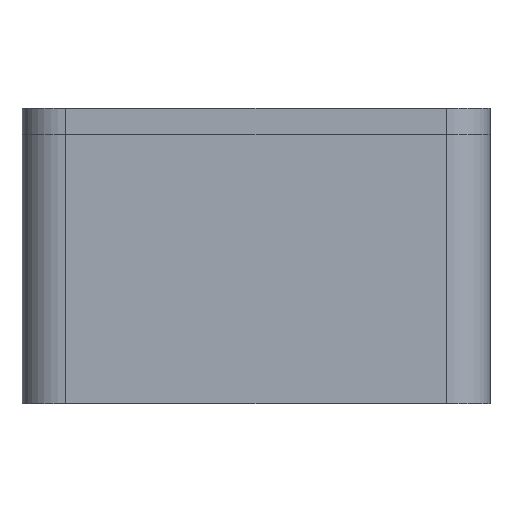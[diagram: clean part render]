
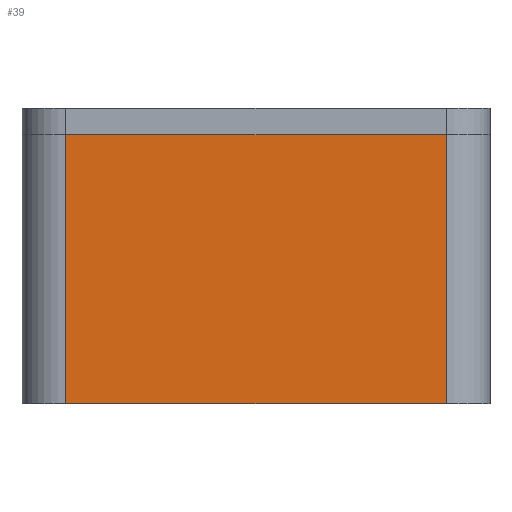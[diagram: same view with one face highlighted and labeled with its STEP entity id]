
A CAD part, left-side view. The second image highlights one B-rep face of the part: STEP entity #39.
In plain terms, the highlighted planar face has unit normal (-1, 0, 0).
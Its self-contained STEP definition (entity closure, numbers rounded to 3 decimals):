
#39 = ADVANCED_FACE('',(#40),#54,.F.);
#40 = FACE_BOUND('',#41,.F.);
#41 = EDGE_LOOP('',(#42,#77,#105,#133));
#42 = ORIENTED_EDGE('',*,*,#43,.F.);
#43 = EDGE_CURVE('',#44,#46,#48,.T.);
#44 = VERTEX_POINT('',#45);
#45 = CARTESIAN_POINT('',(-13.2,-13.,18.4));
#46 = VERTEX_POINT('',#47);
#47 = CARTESIAN_POINT('',(-13.2,13.,18.4));
#48 = SURFACE_CURVE('',#49,(#53,#65),.PCURVE_S1.);
#49 = LINE('',#50,#51);
#50 = CARTESIAN_POINT('',(-13.2,-16.,18.4));
#51 = VECTOR('',#52,1.);
#52 = DIRECTION('',(0.,1.,0.));
#53 = PCURVE('',#54,#59);
#54 = PLANE('',#55);
#55 = AXIS2_PLACEMENT_3D('',#56,#57,#58);
#56 = CARTESIAN_POINT('',(-13.2,-16.,0.));
#57 = DIRECTION('',(1.,0.,0.));
#58 = DIRECTION('',(0.,0.,1.));
#59 = DEFINITIONAL_REPRESENTATION('',(#60),#64);
#60 = LINE('',#61,#62);
#61 = CARTESIAN_POINT('',(18.4,0.));
#62 = VECTOR('',#63,1.);
#63 = DIRECTION('',(0.,-1.));
#64 = ( GEOMETRIC_REPRESENTATION_CONTEXT(2) 
PARAMETRIC_REPRESENTATION_CONTEXT() REPRESENTATION_CONTEXT('2D SPACE',''
  ) );
#65 = PCURVE('',#66,#71);
#66 = PLANE('',#67);
#67 = AXIS2_PLACEMENT_3D('',#68,#69,#70);
#68 = CARTESIAN_POINT('',(-13.2,-16.,18.4));
#69 = DIRECTION('',(0.,0.,1.));
#70 = DIRECTION('',(1.,0.,0.));
#71 = DEFINITIONAL_REPRESENTATION('',(#72),#76);
#72 = LINE('',#73,#74);
#73 = CARTESIAN_POINT('',(0.,0.));
#74 = VECTOR('',#75,1.);
#75 = DIRECTION('',(0.,1.));
#76 = ( GEOMETRIC_REPRESENTATION_CONTEXT(2) 
PARAMETRIC_REPRESENTATION_CONTEXT() REPRESENTATION_CONTEXT('2D SPACE',''
  ) );
#77 = ORIENTED_EDGE('',*,*,#78,.F.);
#78 = EDGE_CURVE('',#79,#44,#81,.T.);
#79 = VERTEX_POINT('',#80);
#80 = CARTESIAN_POINT('',(-13.2,-13.,0.));
#81 = SURFACE_CURVE('',#82,(#86,#93),.PCURVE_S1.);
#82 = LINE('',#83,#84);
#83 = CARTESIAN_POINT('',(-13.2,-13.,0.));
#84 = VECTOR('',#85,1.);
#85 = DIRECTION('',(0.,0.,1.));
#86 = PCURVE('',#54,#87);
#87 = DEFINITIONAL_REPRESENTATION('',(#88),#92);
#88 = LINE('',#89,#90);
#89 = CARTESIAN_POINT('',(0.,-3.));
#90 = VECTOR('',#91,1.);
#91 = DIRECTION('',(1.,0.));
#92 = ( GEOMETRIC_REPRESENTATION_CONTEXT(2) 
PARAMETRIC_REPRESENTATION_CONTEXT() REPRESENTATION_CONTEXT('2D SPACE',''
  ) );
#93 = PCURVE('',#94,#99);
#94 = CYLINDRICAL_SURFACE('',#95,3.);
#95 = AXIS2_PLACEMENT_3D('',#96,#97,#98);
#96 = CARTESIAN_POINT('',(-10.2,-13.,0.));
#97 = DIRECTION('',(0.,0.,1.));
#98 = DIRECTION('',(-1.,-0.,0.));
#99 = DEFINITIONAL_REPRESENTATION('',(#100),#104);
#100 = LINE('',#101,#102);
#101 = CARTESIAN_POINT('',(0.,0.));
#102 = VECTOR('',#103,1.);
#103 = DIRECTION('',(0.,1.));
#104 = ( GEOMETRIC_REPRESENTATION_CONTEXT(2) 
PARAMETRIC_REPRESENTATION_CONTEXT() REPRESENTATION_CONTEXT('2D SPACE',''
  ) );
#105 = ORIENTED_EDGE('',*,*,#106,.T.);
#106 = EDGE_CURVE('',#79,#107,#109,.T.);
#107 = VERTEX_POINT('',#108);
#108 = CARTESIAN_POINT('',(-13.2,13.,0.));
#109 = SURFACE_CURVE('',#110,(#114,#121),.PCURVE_S1.);
#110 = LINE('',#111,#112);
#111 = CARTESIAN_POINT('',(-13.2,-16.,0.));
#112 = VECTOR('',#113,1.);
#113 = DIRECTION('',(0.,1.,0.));
#114 = PCURVE('',#54,#115);
#115 = DEFINITIONAL_REPRESENTATION('',(#116),#120);
#116 = LINE('',#117,#118);
#117 = CARTESIAN_POINT('',(0.,0.));
#118 = VECTOR('',#119,1.);
#119 = DIRECTION('',(0.,-1.));
#120 = ( GEOMETRIC_REPRESENTATION_CONTEXT(2) 
PARAMETRIC_REPRESENTATION_CONTEXT() REPRESENTATION_CONTEXT('2D SPACE',''
  ) );
#121 = PCURVE('',#122,#127);
#122 = PLANE('',#123);
#123 = AXIS2_PLACEMENT_3D('',#124,#125,#126);
#124 = CARTESIAN_POINT('',(-13.2,-16.,0.));
#125 = DIRECTION('',(0.,0.,1.));
#126 = DIRECTION('',(1.,0.,0.));
#127 = DEFINITIONAL_REPRESENTATION('',(#128),#132);
#128 = LINE('',#129,#130);
#129 = CARTESIAN_POINT('',(0.,0.));
#130 = VECTOR('',#131,1.);
#131 = DIRECTION('',(0.,1.));
#132 = ( GEOMETRIC_REPRESENTATION_CONTEXT(2) 
PARAMETRIC_REPRESENTATION_CONTEXT() REPRESENTATION_CONTEXT('2D SPACE',''
  ) );
#133 = ORIENTED_EDGE('',*,*,#134,.T.);
#134 = EDGE_CURVE('',#107,#46,#135,.T.);
#135 = SURFACE_CURVE('',#136,(#140,#147),.PCURVE_S1.);
#136 = LINE('',#137,#138);
#137 = CARTESIAN_POINT('',(-13.2,13.,0.));
#138 = VECTOR('',#139,1.);
#139 = DIRECTION('',(0.,0.,1.));
#140 = PCURVE('',#54,#141);
#141 = DEFINITIONAL_REPRESENTATION('',(#142),#146);
#142 = LINE('',#143,#144);
#143 = CARTESIAN_POINT('',(0.,-29.));
#144 = VECTOR('',#145,1.);
#145 = DIRECTION('',(1.,0.));
#146 = ( GEOMETRIC_REPRESENTATION_CONTEXT(2) 
PARAMETRIC_REPRESENTATION_CONTEXT() REPRESENTATION_CONTEXT('2D SPACE',''
  ) );
#147 = PCURVE('',#148,#153);
#148 = CYLINDRICAL_SURFACE('',#149,3.);
#149 = AXIS2_PLACEMENT_3D('',#150,#151,#152);
#150 = CARTESIAN_POINT('',(-10.2,13.,0.));
#151 = DIRECTION('',(0.,0.,1.));
#152 = DIRECTION('',(-1.,-0.,0.));
#153 = DEFINITIONAL_REPRESENTATION('',(#154),#158);
#154 = LINE('',#155,#156);
#155 = CARTESIAN_POINT('',(-0.,0.));
#156 = VECTOR('',#157,1.);
#157 = DIRECTION('',(-0.,1.));
#158 = ( GEOMETRIC_REPRESENTATION_CONTEXT(2) 
PARAMETRIC_REPRESENTATION_CONTEXT() REPRESENTATION_CONTEXT('2D SPACE',''
  ) );
